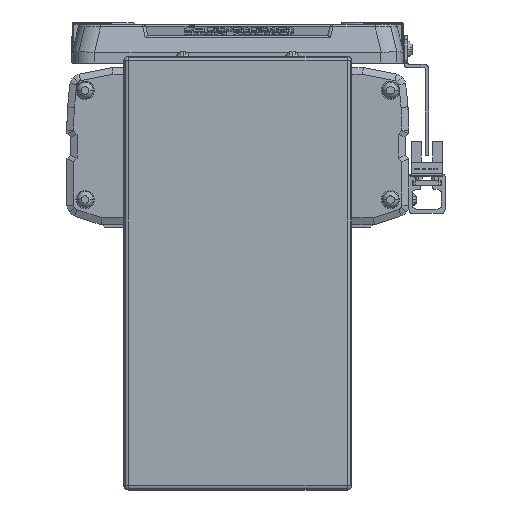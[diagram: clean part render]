
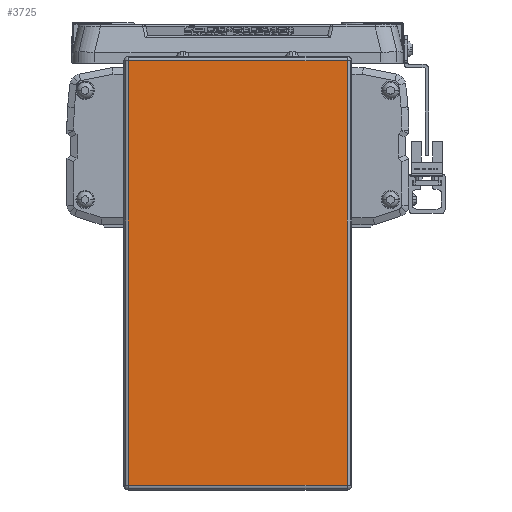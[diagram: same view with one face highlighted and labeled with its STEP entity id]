
A CAD part, left-side view. The second image highlights one B-rep face of the part: STEP entity #3725.
In plain terms, the highlighted planar face has unit normal (-1, 0, 0).
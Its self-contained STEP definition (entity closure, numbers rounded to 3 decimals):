
#3725=ADVANCED_FACE('',(#9280),#9281,.T.);
#9280=FACE_OUTER_BOUND('',#17346,.T.);
#9281=PLANE('',#17347);
#17346=EDGE_LOOP('',(#28514,#28515,#28516,#28517));
#17347=AXIS2_PLACEMENT_3D('',#28518,#28519,#28520);
#28514=ORIENTED_EDGE('',*,*,#49479,.F.);
#28515=ORIENTED_EDGE('',*,*,#48671,.F.);
#28516=ORIENTED_EDGE('',*,*,#49480,.F.);
#28517=ORIENTED_EDGE('',*,*,#49481,.F.);
#28518=CARTESIAN_POINT('',(-45.,0.,-64.2));
#28519=DIRECTION('',(-1.0,0.,0.));
#28520=DIRECTION('',(0.,1.0,0.));
#48671=EDGE_CURVE('',#58426,#58428,#58429,.T.);
#49479=EDGE_CURVE('',#58428,#59818,#59819,.T.);
#49480=EDGE_CURVE('',#57729,#58426,#59820,.T.);
#49481=EDGE_CURVE('',#59818,#57729,#59821,.T.);
#57729=VERTEX_POINT('',#71005);
#58426=VERTEX_POINT('',#71915);
#58428=VERTEX_POINT('',#71917);
#58429=LINE('',#71918,#71919);
#59818=VERTEX_POINT('',#73764);
#59819=LINE('',#73765,#73766);
#59820=LINE('',#73767,#73768);
#59821=LINE('',#73769,#73770);
#71005=CARTESIAN_POINT('',(-45.,-48.,-157.4));
#71915=CARTESIAN_POINT('',(-45.,48.,-157.4));
#71917=CARTESIAN_POINT('',(-45.,48.,29.));
#71918=CARTESIAN_POINT('',(-45.,48.,-64.2));
#71919=VECTOR('',#88264,10.0);
#73764=CARTESIAN_POINT('',(-45.,-48.,29.));
#73765=CARTESIAN_POINT('',(-45.,0.,29.));
#73766=VECTOR('',#89320,10.0);
#73767=CARTESIAN_POINT('',(-45.,0.,-157.4));
#73768=VECTOR('',#89321,10.0);
#73769=CARTESIAN_POINT('',(-45.,-48.,-64.2));
#73770=VECTOR('',#89322,10.0);
#88264=DIRECTION('',(0.,0.,1.0));
#89320=DIRECTION('',(0.0,-1.0,0.));
#89321=DIRECTION('',(0.0,1.0,0.));
#89322=DIRECTION('',(0.,0.,-1.0));
